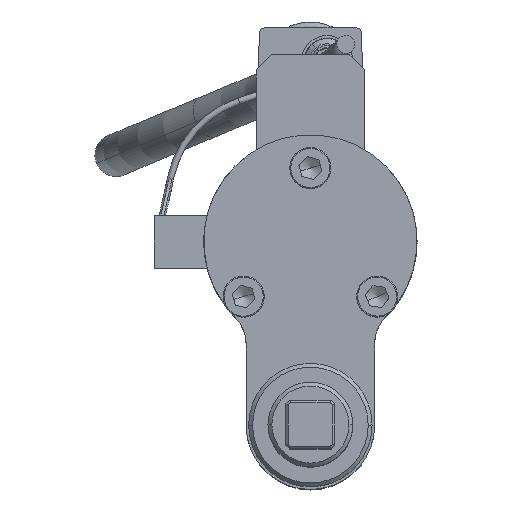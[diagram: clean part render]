
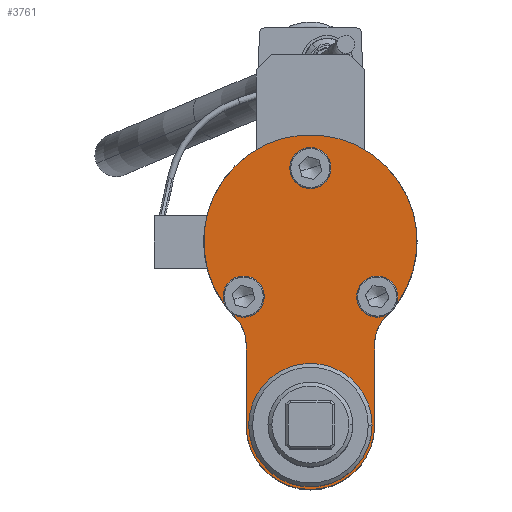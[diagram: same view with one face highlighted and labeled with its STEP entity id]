
A CAD part, top view. The second image highlights one B-rep face of the part: STEP entity #3761.
In plain terms, the highlighted planar face has unit normal (0, 0, 1).
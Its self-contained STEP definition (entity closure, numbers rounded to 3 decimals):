
#3552=AXIS2_PLACEMENT_3D('Circle Axis2P3D',#3550,#3551,$) ;
#3660=AXIS2_PLACEMENT_3D('Plane Axis2P3D',#3657,#3658,#3659) ;
#3664=AXIS2_PLACEMENT_3D('Circle Axis2P3D',#3662,#3663,$) ;
#3673=AXIS2_PLACEMENT_3D('Circle Axis2P3D',#3671,#3672,$) ;
#3678=AXIS2_PLACEMENT_3D('Circle Axis2P3D',#3676,#3677,$) ;
#3691=AXIS2_PLACEMENT_3D('Circle Axis2P3D',#3689,#3690,$) ;
#3700=AXIS2_PLACEMENT_3D('Circle Axis2P3D',#3698,#3699,$) ;
#3709=AXIS2_PLACEMENT_3D('Circle Axis2P3D',#3707,#3708,$) ;
#3718=AXIS2_PLACEMENT_3D('Circle Axis2P3D',#3716,#3717,$) ;
#3727=AXIS2_PLACEMENT_3D('Circle Axis2P3D',#3725,#3726,$) ;
#3736=AXIS2_PLACEMENT_3D('Circle Axis2P3D',#3734,#3735,$) ;
#3745=AXIS2_PLACEMENT_3D('Circle Axis2P3D',#3743,#3744,$) ;
#3754=AXIS2_PLACEMENT_3D('Circle Axis2P3D',#3752,#3753,$) ;
#3540=CARTESIAN_POINT('Vertex',(-25.,-71.5,620.1)) ;
#3547=CARTESIAN_POINT('Vertex',(25.,-71.5,620.1)) ;
#3550=CARTESIAN_POINT('Axis2P3D Location',(0.,-71.5,620.1)) ;
#3618=CARTESIAN_POINT('Vertex',(-25.,-39.903,620.1)) ;
#3621=CARTESIAN_POINT('Line Origine',(-25.,-55.702,620.1)) ;
#3642=CARTESIAN_POINT('Vertex',(25.,-39.903,620.1)) ;
#3645=CARTESIAN_POINT('Line Origine',(25.,-55.702,620.1)) ;
#3657=CARTESIAN_POINT('Axis2P3D Location',(0.,0.,620.1)) ;
#3662=CARTESIAN_POINT('Axis2P3D Location',(0.,0.,620.1)) ;
#3666=CARTESIAN_POINT('Vertex',(29.381,-29.309,620.1)) ;
#3668=CARTESIAN_POINT('Vertex',(-29.381,-29.309,620.1)) ;
#3671=CARTESIAN_POINT('Axis2P3D Location',(-40.,-39.903,620.1)) ;
#3676=CARTESIAN_POINT('Axis2P3D Location',(40.,-39.903,620.1)) ;
#3689=CARTESIAN_POINT('Axis2P3D Location',(0.,28.5,620.1)) ;
#3693=CARTESIAN_POINT('Vertex',(-4.553,30.987,620.1)) ;
#3695=CARTESIAN_POINT('Vertex',(4.553,26.013,620.1)) ;
#3698=CARTESIAN_POINT('Axis2P3D Location',(0.,28.5,620.1)) ;
#3707=CARTESIAN_POINT('Axis2P3D Location',(-26.,-21.5,620.1)) ;
#3711=CARTESIAN_POINT('Vertex',(-30.553,-19.013,620.1)) ;
#3713=CARTESIAN_POINT('Vertex',(-21.447,-23.987,620.1)) ;
#3716=CARTESIAN_POINT('Axis2P3D Location',(-26.,-21.5,620.1)) ;
#3725=CARTESIAN_POINT('Axis2P3D Location',(0.,-71.5,620.1)) ;
#3729=CARTESIAN_POINT('Vertex',(24.,-71.5,620.1)) ;
#3731=CARTESIAN_POINT('Vertex',(-24.,-71.5,620.1)) ;
#3734=CARTESIAN_POINT('Axis2P3D Location',(0.,-71.5,620.1)) ;
#3743=CARTESIAN_POINT('Axis2P3D Location',(26.,-21.5,620.1)) ;
#3747=CARTESIAN_POINT('Vertex',(21.447,-19.013,620.1)) ;
#3749=CARTESIAN_POINT('Vertex',(30.553,-23.987,620.1)) ;
#3752=CARTESIAN_POINT('Axis2P3D Location',(26.,-21.5,620.1)) ;
#3551=DIRECTION('Axis2P3D Direction',(0.,0.,1.)) ;
#3622=DIRECTION('Vector Direction',(0.,1.,0.)) ;
#3646=DIRECTION('Vector Direction',(0.,1.,0.)) ;
#3658=DIRECTION('Axis2P3D Direction',(0.,0.,1.)) ;
#3659=DIRECTION('Axis2P3D XDirection',(1.,0.,0.)) ;
#3663=DIRECTION('Axis2P3D Direction',(0.,0.,1.)) ;
#3672=DIRECTION('Axis2P3D Direction',(0.,0.,1.)) ;
#3677=DIRECTION('Axis2P3D Direction',(0.,0.,1.)) ;
#3690=DIRECTION('Axis2P3D Direction',(0.,0.,1.)) ;
#3699=DIRECTION('Axis2P3D Direction',(0.,0.,1.)) ;
#3708=DIRECTION('Axis2P3D Direction',(0.,0.,1.)) ;
#3717=DIRECTION('Axis2P3D Direction',(0.,0.,1.)) ;
#3726=DIRECTION('Axis2P3D Direction',(0.,0.,1.)) ;
#3735=DIRECTION('Axis2P3D Direction',(0.,0.,1.)) ;
#3744=DIRECTION('Axis2P3D Direction',(0.,0.,1.)) ;
#3753=DIRECTION('Axis2P3D Direction',(0.,0.,1.)) ;
#3623=VECTOR('Line Direction',#3622,1.) ;
#3647=VECTOR('Line Direction',#3646,1.) ;
#3682=ORIENTED_EDGE('',*,*,#3670,.T.) ;
#3683=ORIENTED_EDGE('',*,*,#3675,.T.) ;
#3684=ORIENTED_EDGE('',*,*,#3625,.T.) ;
#3685=ORIENTED_EDGE('',*,*,#3554,.T.) ;
#3686=ORIENTED_EDGE('',*,*,#3649,.T.) ;
#3687=ORIENTED_EDGE('',*,*,#3680,.T.) ;
#3704=ORIENTED_EDGE('',*,*,#3697,.F.) ;
#3705=ORIENTED_EDGE('',*,*,#3702,.F.) ;
#3722=ORIENTED_EDGE('',*,*,#3715,.F.) ;
#3723=ORIENTED_EDGE('',*,*,#3720,.F.) ;
#3740=ORIENTED_EDGE('',*,*,#3733,.F.) ;
#3741=ORIENTED_EDGE('',*,*,#3738,.F.) ;
#3758=ORIENTED_EDGE('',*,*,#3751,.F.) ;
#3759=ORIENTED_EDGE('',*,*,#3756,.F.) ;
#3706=FACE_BOUND('',#3703,.T.) ;
#3724=FACE_BOUND('',#3721,.T.) ;
#3742=FACE_BOUND('',#3739,.T.) ;
#3760=FACE_BOUND('',#3757,.T.) ;
#3761=ADVANCED_FACE('AOD-325-300.1\\AOD325-300.1\\Hauptk\X2\00F6\X0\rper',(#3688,#3706,#3724,#3742,#3760),#3661,.T.) ;
#3553=CIRCLE('generated circle',#3552,25.) ;
#3665=CIRCLE('generated circle',#3664,41.5) ;
#3674=CIRCLE('generated circle',#3673,15.) ;
#3679=CIRCLE('generated circle',#3678,15.) ;
#3692=CIRCLE('generated circle',#3691,5.188) ;
#3701=CIRCLE('generated circle',#3700,5.188) ;
#3710=CIRCLE('generated circle',#3709,5.188) ;
#3719=CIRCLE('generated circle',#3718,5.188) ;
#3728=CIRCLE('generated circle',#3727,24.) ;
#3737=CIRCLE('generated circle',#3736,24.) ;
#3746=CIRCLE('generated circle',#3745,5.188) ;
#3755=CIRCLE('generated circle',#3754,5.188) ;
#3554=EDGE_CURVE('',#3541,#3548,#3553,.T.) ;
#3625=EDGE_CURVE('',#3619,#3541,#3624,.F.) ;
#3649=EDGE_CURVE('',#3548,#3643,#3648,.T.) ;
#3670=EDGE_CURVE('',#3667,#3669,#3665,.T.) ;
#3675=EDGE_CURVE('',#3669,#3619,#3674,.F.) ;
#3680=EDGE_CURVE('',#3643,#3667,#3679,.F.) ;
#3697=EDGE_CURVE('',#3694,#3696,#3692,.T.) ;
#3702=EDGE_CURVE('',#3696,#3694,#3701,.T.) ;
#3715=EDGE_CURVE('',#3712,#3714,#3710,.T.) ;
#3720=EDGE_CURVE('',#3714,#3712,#3719,.T.) ;
#3733=EDGE_CURVE('',#3730,#3732,#3728,.T.) ;
#3738=EDGE_CURVE('',#3732,#3730,#3737,.T.) ;
#3751=EDGE_CURVE('',#3748,#3750,#3746,.T.) ;
#3756=EDGE_CURVE('',#3750,#3748,#3755,.T.) ;
#3681=EDGE_LOOP('',(#3682,#3683,#3684,#3685,#3686,#3687)) ;
#3703=EDGE_LOOP('',(#3704,#3705)) ;
#3721=EDGE_LOOP('',(#3722,#3723)) ;
#3739=EDGE_LOOP('',(#3740,#3741)) ;
#3757=EDGE_LOOP('',(#3758,#3759)) ;
#3688=FACE_OUTER_BOUND('',#3681,.T.) ;
#3624=LINE('Line',#3621,#3623) ;
#3648=LINE('Line',#3645,#3647) ;
#3661=PLANE('Plane',#3660) ;
#3541=VERTEX_POINT('',#3540) ;
#3548=VERTEX_POINT('',#3547) ;
#3619=VERTEX_POINT('',#3618) ;
#3643=VERTEX_POINT('',#3642) ;
#3667=VERTEX_POINT('',#3666) ;
#3669=VERTEX_POINT('',#3668) ;
#3694=VERTEX_POINT('',#3693) ;
#3696=VERTEX_POINT('',#3695) ;
#3712=VERTEX_POINT('',#3711) ;
#3714=VERTEX_POINT('',#3713) ;
#3730=VERTEX_POINT('',#3729) ;
#3732=VERTEX_POINT('',#3731) ;
#3748=VERTEX_POINT('',#3747) ;
#3750=VERTEX_POINT('',#3749) ;
